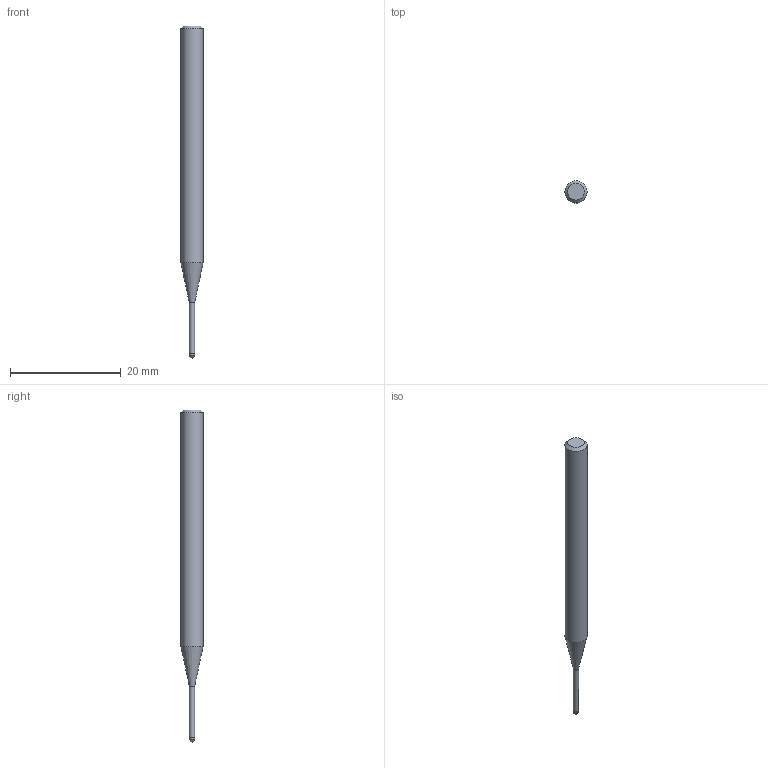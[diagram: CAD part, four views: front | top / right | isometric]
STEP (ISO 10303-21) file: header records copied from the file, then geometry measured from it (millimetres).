
FILE_DESCRIPTION((''),'2;1');
FILE_NAME('C:\Users\nsx150\AppData\Local\Temp\Mastercam 2021\EUJSUNXURU\TEMP.step','2021-04-22T10:22:42',(''),(''),'STEP Write','Mastercam 2021 ... CNC Software, Inc.','');
FILE_SCHEMA(('AUTOMOTIVE_DESIGN'));
Length unit declared in the file: millimetre
Products named in the file (1): None
Bounding box: 4 x 4 x 60 mm (x, y, z)
Volume: 582.6 mm3; surface area: 635.2 mm2
Topology: 2 solids, 2 shells, 9 faces, 14 edges, 8 vertices
Faces by surface type: plane 3, cylinder 3, cone 2, sphere 1
Full cylindrical faces by diameter (mm): 0.95 x1, 1 x1, 4 x1
Entity records: 211 total; most frequent: DIRECTION 36, CARTESIAN_POINT 25, AXIS2_PLACEMENT_3D 18, ORIENTED_EDGE 14, EDGE_LOOP 14, STYLED_ITEM 12, ADVANCED_FACE 9, FACE_BOUND 8
